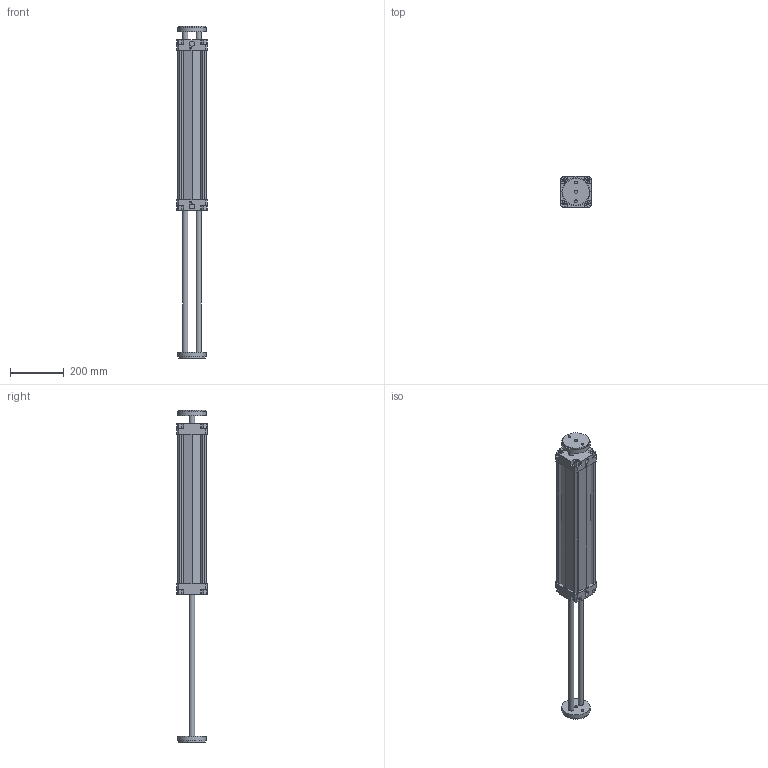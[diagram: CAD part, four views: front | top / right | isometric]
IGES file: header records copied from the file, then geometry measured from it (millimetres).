
Global section: file name: 132#_100_0500_06; native system: Autodesk Inventor 2014; preprocessor: unknown; author: A. Manieri; date: 20161006.163831; units: millimetre
Bounding box: 115 x 115 x 1240 mm (x, y, z)
Volume: 3838974 mm3; surface area: 758966.7 mm2
Topology: 2 solids, 2 shells, 190 faces, 518 edges, 354 vertices
Faces by surface type: bspline 190
